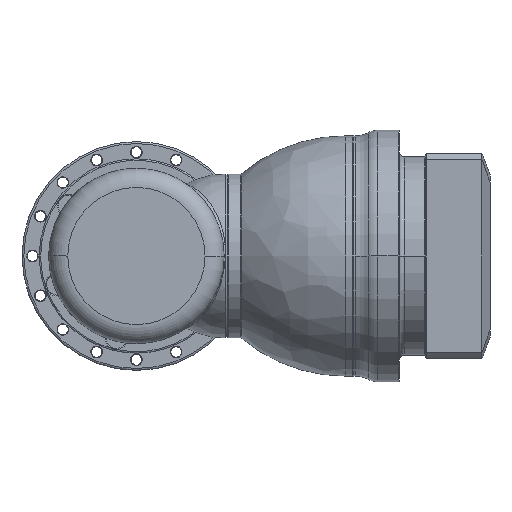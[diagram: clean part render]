
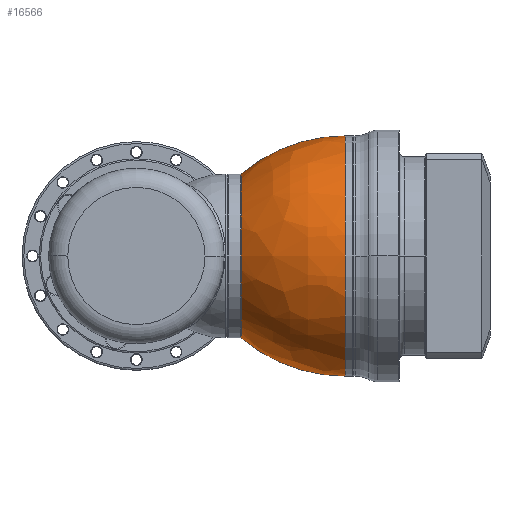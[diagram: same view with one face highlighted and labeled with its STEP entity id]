
A CAD part, left-side view. The second image highlights one B-rep face of the part: STEP entity #16566.
In plain terms, the highlighted free-form (B-spline) face has degree [3, 3] with [7, 4] control points.
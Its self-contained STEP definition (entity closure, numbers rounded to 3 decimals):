
#16272=CARTESIAN_POINT('',(-4.,0.,0.));
#16273=DIRECTION('',(1.,0.,0.));
#16274=DIRECTION('',(0.,-1.,0.));
#16275=AXIS2_PLACEMENT_3D('',#16272,#16273,#16274);
#16296=CARTESIAN_POINT('',(-4.,-21.256,0.));
#16297=DIRECTION('',(0.,0.,-1.));
#16298=DIRECTION('',(-0.645,0.764,0.));
#16299=AXIS2_PLACEMENT_3D('',#16296,#16297,#16298);
#16301=CARTESIAN_POINT('',(-4.,21.256,0.));
#16302=DIRECTION('',(0.,0.,1.));
#16303=DIRECTION('',(-0.645,-0.764,0.));
#16304=AXIS2_PLACEMENT_3D('',#16301,#16302,#16303);
#16316=CARTESIAN_POINT('',(-58.361,0.,0.));
#16317=DIRECTION('',(-1.,0.,0.));
#16318=DIRECTION('',(0.,1.,0.));
#16319=AXIS2_PLACEMENT_3D('',#16316,#16317,#16318);
#16367=CARTESIAN_POINT('',(-4.,63.,0.));
#16368=CARTESIAN_POINT('',(-4.,-63.,0.));
#16369=VERTEX_POINT('',#16367);
#16370=VERTEX_POINT('',#16368);
#16371=CARTESIAN_POINT('',(-58.361,43.118,0.));
#16372=CARTESIAN_POINT('',(-58.361,-43.118,0.));
#16373=VERTEX_POINT('',#16371);
#16374=VERTEX_POINT('',#16372);
#16531=CARTESIAN_POINT('',(-2.818,62.867,
3.955));
#16532=CARTESIAN_POINT('',(-23.767,63.161,
3.974));
#16533=CARTESIAN_POINT('',(-43.442,55.979,
3.522));
#16534=CARTESIAN_POINT('',(-59.258,42.266,
2.659));
#16535=CARTESIAN_POINT('',(-2.818,65.301,
-34.733));
#16536=CARTESIAN_POINT('',(-23.767,65.606,
-34.895));
#16537=CARTESIAN_POINT('',(-43.442,58.146,
-30.927));
#16538=CARTESIAN_POINT('',(-59.258,43.902,
-23.351));
#16539=CARTESIAN_POINT('',(-2.818,38.765,
-62.992));
#16540=CARTESIAN_POINT('',(-23.767,38.946,
-63.286));
#16541=CARTESIAN_POINT('',(-43.442,34.517,
-56.089));
#16542=CARTESIAN_POINT('',(-59.258,26.062,
-42.349));
#16543=CARTESIAN_POINT('',(-2.818,0.,
-62.992));
#16544=CARTESIAN_POINT('',(-23.767,0.,
-63.286));
#16545=CARTESIAN_POINT('',(-43.442,0.,-56.089));
#16546=CARTESIAN_POINT('',(-59.258,0.,-42.349));
#16547=CARTESIAN_POINT('',(-2.818,-38.765,
-62.992));
#16548=CARTESIAN_POINT('',(-23.767,-38.946,
-63.286));
#16549=CARTESIAN_POINT('',(-43.442,-34.517,
-56.089));
#16550=CARTESIAN_POINT('',(-59.258,-26.062,
-42.349));
#16551=CARTESIAN_POINT('',(-2.818,-65.301,
-34.733));
#16552=CARTESIAN_POINT('',(-23.767,-65.606,
-34.895));
#16553=CARTESIAN_POINT('',(-43.442,-58.146,
-30.927));
#16554=CARTESIAN_POINT('',(-59.258,-43.902,
-23.351));
#16555=CARTESIAN_POINT('',(-2.818,-62.867,
3.955));
#16556=CARTESIAN_POINT('',(-23.767,-63.161,
3.974));
#16557=CARTESIAN_POINT('',(-43.442,-55.979,
3.522));
#16558=CARTESIAN_POINT('',(-59.258,-42.266,
2.659));
#16559=(BOUNDED_SURFACE()B_SPLINE_SURFACE(3,3,((#16531,#16532,#16533,#16534),(
#16535,#16536,#16537,#16538),(#16539,#16540,#16541,#16542),(#16543,#16544,
#16545,#16546),(#16547,#16548,#16549,#16550),(#16551,#16552,#16553,#16554),(
#16555,#16556,#16557,#16558)),.UNSPECIFIED.,.F.,.F.,.F.)B_SPLINE_SURFACE_WITH_KNOTS((4,3,4),(4,4),(0.,1.,2.),(0.,1.),.UNSPECIFIED.)GEOMETRIC_REPRESENTATION_ITEM()RATIONAL_B_SPLINE_SURFACE(((1.228,1.174,
1.174,1.228),(0.969,0.927,
0.927,0.969),(0.969,0.927,
0.927,0.969),(1.228,1.174,
1.174,1.228),(0.969,0.927,
0.927,0.969),(0.969,0.927,
0.927,0.969),(1.228,1.174,
1.174,1.228)))REPRESENTATION_ITEM('')SURFACE());
#16560=ORIENTED_EDGE('',*,*,#16522,.T.);
#16561=ORIENTED_EDGE('',*,*,#16497,.T.);
#16562=ORIENTED_EDGE('',*,*,#16443,.T.);
#16563=ORIENTED_EDGE('',*,*,#16494,.F.);
#16564=EDGE_LOOP('',(#16560,#16561,#16562,#16563));
#16565=FACE_OUTER_BOUND('',#16564,.F.);
#16566=ADVANCED_FACE('',(#16565),#16559,.T.);
#16276=CIRCLE('',#16275,63.);
#16300=CIRCLE('',#16299,84.256);
#16305=CIRCLE('',#16304,84.256);
#16320=CIRCLE('',#16319,43.118);
#16443=EDGE_CURVE('',#16370,#16369,#16276,.T.);
#16494=EDGE_CURVE('',#16373,#16369,#16300,.T.);
#16497=EDGE_CURVE('',#16374,#16370,#16305,.T.);
#16522=EDGE_CURVE('',#16373,#16374,#16320,.T.);
